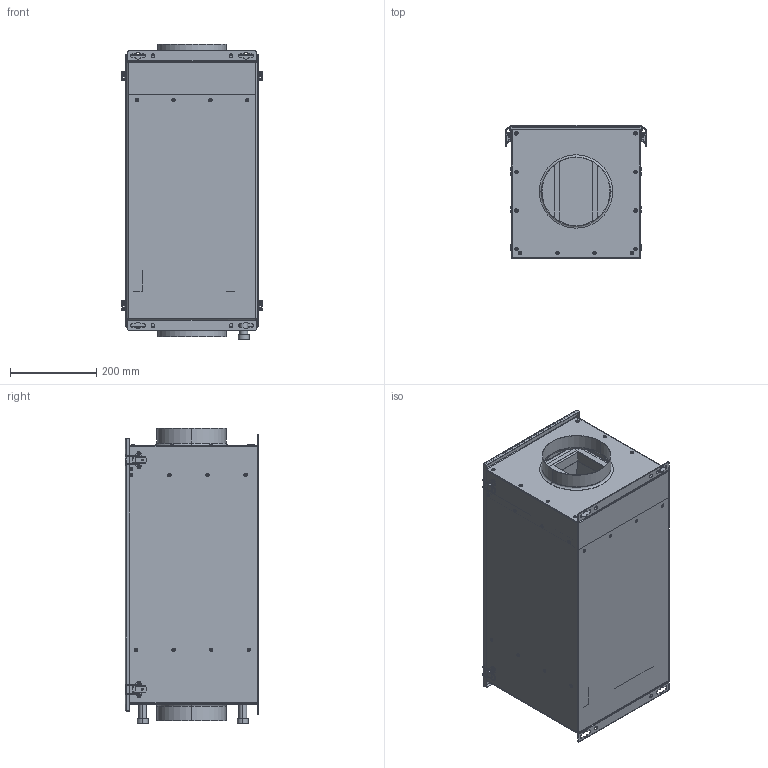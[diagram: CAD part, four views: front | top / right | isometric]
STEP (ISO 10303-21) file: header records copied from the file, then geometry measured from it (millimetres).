
FILE_DESCRIPTION (( 'STEP AP203' ), '1' );
FILE_NAME ('112852-00_FTW160_step.step', '2020-08-26T09:47:06', ( '' ), ( '' ), 'SwSTEP 2.0', 'SolidWorks 2017', '' );
FILE_SCHEMA (( 'CONFIG_CONTROL_DESIGN' ));
Length unit declared in the file: millimetre
Products named in the file (1): 112852-00_FTW160_step
Bounding box: 327.58 x 309.3 x 684 mm (x, y, z)
Surface area: 2158638.8 mm2 (no closed solid volume)
Topology: 0 solids, 100 shells, 834 faces, 2725 edges, 1880 vertices
Faces by surface type: cylinder 407, plane 213, torus 124, bspline 90
Entity records: 32208 total; most frequent: CARTESIAN_POINT 7728, DIRECTION 5660, ORIENTED_EDGE 4258, EDGE_CURVE 2725, AXIS2_PLACEMENT_3D 2268, VERTEX_POINT 1880, CIRCLE 1523, VECTOR 1124
